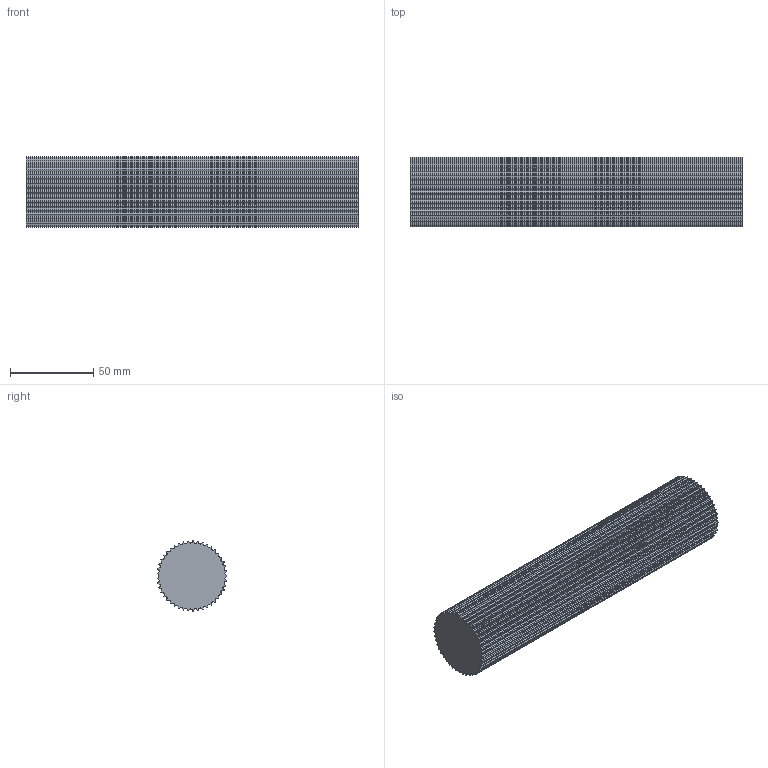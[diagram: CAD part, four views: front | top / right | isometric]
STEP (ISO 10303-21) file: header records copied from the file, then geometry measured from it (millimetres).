
FILE_DESCRIPTION( ( 'STEP AP214' ), '1' );
FILE_NAME( 'C:/Users/StangenbergN/Desktop/Steps Zahnriemenräder/K166_HTD-Zahnwellen/17094500.stp', '2019-06-06T09:35:22', ( '' ), ( '' ), ' ', 'PARTsolutions', ' ' );
FILE_SCHEMA( ( 'AUTOMOTIVE_DESIGN { 1 0 10303 214 1 1 1 1 }' ) );
Length unit declared in the file: millimetre
Products named in the file (1): _17094500
Bounding box: 200 x 42.16 x 42.19 mm (x, y, z)
Volume: 260617.2 mm3; surface area: 38859.2 mm2
Topology: 1 solids, 1 shells, 362 faces, 1080 edges, 720 vertices
Faces by surface type: cylinder 225, plane 137
Entity records: 15266 total; most frequent: DIRECTION 2256, CARTESIAN_POINT 2163, ORIENTED_EDGE 2160, EDGE_CURVE 1080, AXIS2_PLACEMENT_3D 813, VERTEX_POINT 720, LINE 630, VECTOR 630
